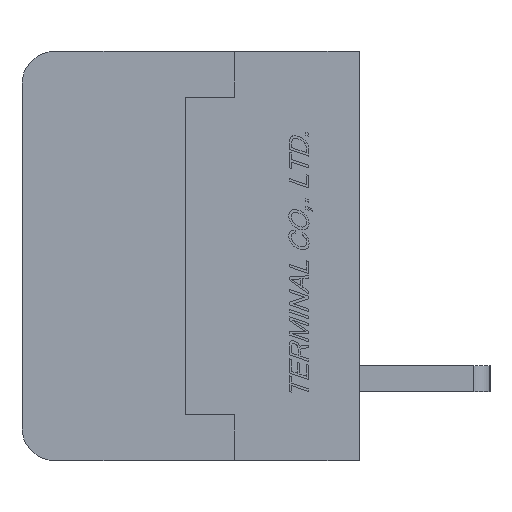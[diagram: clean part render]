
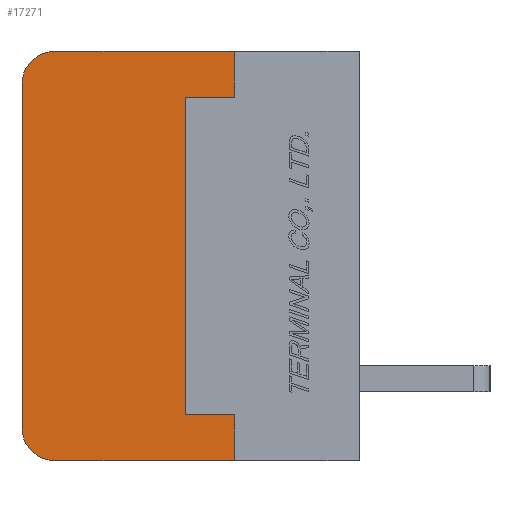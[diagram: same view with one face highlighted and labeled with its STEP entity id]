
A CAD part, left-side view. The second image highlights one B-rep face of the part: STEP entity #17271.
In plain terms, the highlighted planar face has unit normal (-1, 0, 0).
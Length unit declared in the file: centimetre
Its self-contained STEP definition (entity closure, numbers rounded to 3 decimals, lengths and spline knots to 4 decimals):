
#959=CIRCLE('',#29330,0.1);
#961=CIRCLE('',#29333,0.1);
#2354=VERTEX_POINT('',#26801);
#2355=VERTEX_POINT('',#26803);
#2357=VERTEX_POINT('',#26809);
#2359=VERTEX_POINT('',#26815);
#2360=VERTEX_POINT('',#26822);
#2361=VERTEX_POINT('',#26823);
#2362=VERTEX_POINT('',#26826);
#2363=VERTEX_POINT('',#26828);
#2364=VERTEX_POINT('',#26830);
#2365=VERTEX_POINT('',#26832);
#4186=VECTOR('',#21076,1.);
#4192=VECTOR('',#21096,1.);
#4193=VECTOR('',#21097,1.);
#4194=VECTOR('',#21098,1.);
#4195=VECTOR('',#21099,1.);
#4196=VECTOR('',#21100,1.);
#4197=VECTOR('',#21101,1.);
#4198=VECTOR('',#21102,1.);
#6086=LINE('',#26802,#4186);
#6092=LINE('',#26821,#4192);
#6093=LINE('',#26824,#4193);
#6094=LINE('',#26825,#4194);
#6095=LINE('',#26827,#4195);
#6096=LINE('',#26829,#4196);
#6097=LINE('',#26831,#4197);
#6098=LINE('',#26833,#4198);
#8600=EDGE_CURVE('',#2354,#2355,#6086,.T.);
#8604=EDGE_CURVE('',#2357,#2354,#959,.T.);
#8606=EDGE_CURVE('',#2355,#2359,#961,.T.);
#8610=EDGE_CURVE('',#2360,#2361,#6092,.T.);
#8611=EDGE_CURVE('',#2359,#2360,#6093,.T.);
#8612=EDGE_CURVE('',#2362,#2357,#6094,.T.);
#8613=EDGE_CURVE('',#2363,#2362,#6095,.T.);
#8614=EDGE_CURVE('',#2364,#2363,#6096,.T.);
#8615=EDGE_CURVE('',#2365,#2364,#6097,.T.);
#8616=EDGE_CURVE('',#2361,#2365,#6098,.T.);
#13258=ORIENTED_EDGE('',*,*,#8610,.F.);
#13259=ORIENTED_EDGE('',*,*,#8611,.F.);
#13260=ORIENTED_EDGE('',*,*,#8606,.F.);
#13261=ORIENTED_EDGE('',*,*,#8600,.F.);
#13262=ORIENTED_EDGE('',*,*,#8604,.F.);
#13263=ORIENTED_EDGE('',*,*,#8612,.F.);
#13264=ORIENTED_EDGE('',*,*,#8613,.F.);
#13265=ORIENTED_EDGE('',*,*,#8614,.F.);
#13266=ORIENTED_EDGE('',*,*,#8615,.F.);
#13267=ORIENTED_EDGE('',*,*,#8616,.F.);
#15209=EDGE_LOOP('',(#13258,#13259,#13260,#13261,#13262,#13263,#13264,#13265,
#13266,#13267));
#16271=FACE_BOUND('',#15209,.T.);
#17271=ADVANCED_FACE('',(#16271),#18001,.F.);
#18001=PLANE('',#29335);
#21076=DIRECTION('',(0.,0.,1.));
#21083=DIRECTION('',(1.,0.,0.));
#21084=DIRECTION('',(0.,0.,-0.1));
#21089=DIRECTION('',(1.,0.,0.));
#21090=DIRECTION('',(0.,0.,-0.1));
#21095=DIRECTION('',(1.,0.,0.));
#21096=DIRECTION('',(0.,0.,-1.));
#21097=DIRECTION('',(0.,-1.,0.));
#21098=DIRECTION('',(0.,1.,0.));
#21099=DIRECTION('',(0.,0.,-1.));
#21100=DIRECTION('',(0.,-1.,0.));
#21101=DIRECTION('',(0.,0.,-1.));
#21102=DIRECTION('',(0.,1.,0.));
#26801=CARTESIAN_POINT('',(-0.762,1.03,-0.525));
#26802=CARTESIAN_POINT('',(-0.762,1.03,-0.525));
#26803=CARTESIAN_POINT('',(-0.762,1.03,0.525));
#26809=CARTESIAN_POINT('',(-0.762,0.93,-0.625));
#26810=CARTESIAN_POINT('',(-0.762,0.93,-0.525));
#26814=CARTESIAN_POINT('',(-0.762,0.93,0.525));
#26815=CARTESIAN_POINT('',(-0.762,0.93,0.625));
#26820=CARTESIAN_POINT('',(-0.762,0.5047,0.));
#26821=CARTESIAN_POINT('',(-0.762,0.38,0.625));
#26822=CARTESIAN_POINT('',(-0.762,0.38,0.625));
#26823=CARTESIAN_POINT('',(-0.762,0.38,0.485));
#26824=CARTESIAN_POINT('',(-0.762,0.93,0.625));
#26825=CARTESIAN_POINT('',(-0.762,0.,-0.625));
#26826=CARTESIAN_POINT('',(-0.762,0.38,-0.625));
#26827=CARTESIAN_POINT('',(-0.762,0.38,-0.485));
#26828=CARTESIAN_POINT('',(-0.762,0.38,-0.485));
#26829=CARTESIAN_POINT('',(-0.762,0.53,-0.485));
#26830=CARTESIAN_POINT('',(-0.762,0.53,-0.485));
#26831=CARTESIAN_POINT('',(-0.762,0.53,0.485));
#26832=CARTESIAN_POINT('',(-0.762,0.53,0.485));
#26833=CARTESIAN_POINT('',(-0.762,0.38,0.485));
#29330=AXIS2_PLACEMENT_3D('',#26810,#21083,#21084);
#29333=AXIS2_PLACEMENT_3D('',#26814,#21089,#21090);
#29335=AXIS2_PLACEMENT_3D('',#26820,#21095,$);
